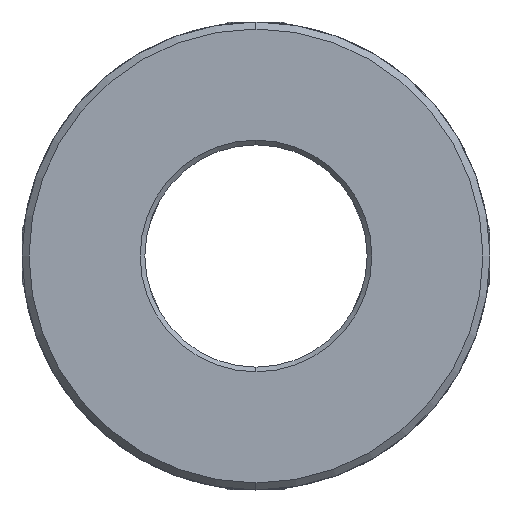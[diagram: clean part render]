
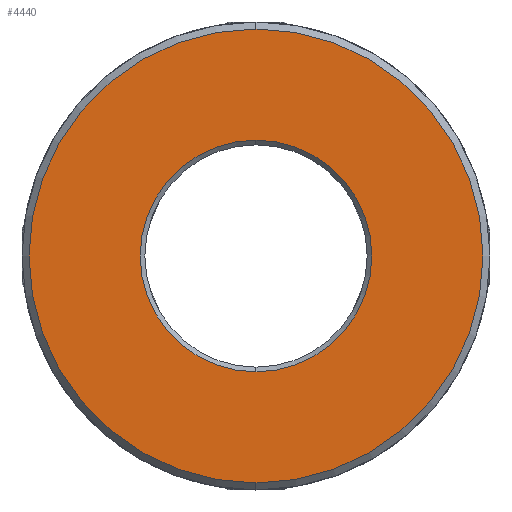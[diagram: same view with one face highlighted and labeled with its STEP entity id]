
A CAD part, front view. The second image highlights one B-rep face of the part: STEP entity #4440.
In plain terms, the highlighted planar face has unit normal (0, -1, 0).
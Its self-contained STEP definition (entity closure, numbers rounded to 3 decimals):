
#106 = CIRCLE ( 'NONE', #4881, 9.9 ) ;
#231 = CARTESIAN_POINT ( 'NONE',  ( 0., 0., -9.9 ) ) ;
#261 = VERTEX_POINT ( 'NONE', #3317 ) ;
#290 = CARTESIAN_POINT ( 'NONE',  ( 0., 0., 0. ) ) ;
#365 = EDGE_LOOP ( 'NONE', ( #3803, #7775 ) ) ;
#479 = ORIENTED_EDGE ( 'NONE', *, *, #4697, .T. ) ;
#630 = AXIS2_PLACEMENT_3D ( 'NONE', #1053, #7718, #2283 ) ;
#773 = DIRECTION ( 'NONE',  ( 0., -1., 0. ) ) ;
#788 = ORIENTED_EDGE ( 'NONE', *, *, #5465, .T. ) ;
#878 = DIRECTION ( 'NONE',  ( 0., 0., 1. ) ) ;
#962 = EDGE_CURVE ( 'NONE', #5996, #2149, #973, .T. ) ;
#973 = CIRCLE ( 'NONE', #6488, 9.9 ) ;
#1053 = CARTESIAN_POINT ( 'NONE',  ( 24.74, 0., -50. ) ) ;
#1270 = DIRECTION ( 'NONE',  ( 0., -1., 0. ) ) ;
#1856 = DIRECTION ( 'NONE',  ( 0., 0., 1. ) ) ;
#2149 = VERTEX_POINT ( 'NONE', #231 ) ;
#2278 = DIRECTION ( 'NONE',  ( 0., 1., 0. ) ) ;
#2283 = DIRECTION ( 'NONE',  ( 0., 0., 1. ) ) ;
#2430 = CARTESIAN_POINT ( 'NONE',  ( 0., 0., 0. ) ) ;
#2643 = CARTESIAN_POINT ( 'NONE',  ( 0., 0., 0. ) ) ;
#3071 = CARTESIAN_POINT ( 'NONE',  ( 0., 0., 9.9 ) ) ;
#3317 = CARTESIAN_POINT ( 'NONE',  ( 0., 0., 19.4 ) ) ;
#3424 = AXIS2_PLACEMENT_3D ( 'NONE', #2643, #773, #878 ) ;
#3455 = EDGE_LOOP ( 'NONE', ( #788, #479 ) ) ;
#3803 = ORIENTED_EDGE ( 'NONE', *, *, #5445, .T. ) ;
#4337 = FACE_OUTER_BOUND ( 'NONE', #3455, .T. ) ;
#4440 = ADVANCED_FACE ( 'NONE', ( #7747, #4337 ), #5933, .F. ) ;
#4697 = EDGE_CURVE ( 'NONE', #7692, #261, #5772, .T. ) ;
#4881 = AXIS2_PLACEMENT_3D ( 'NONE', #290, #6167, #6271 ) ;
#5246 = AXIS2_PLACEMENT_3D ( 'NONE', #2430, #1270, #1856 ) ;
#5384 = DIRECTION ( 'NONE',  ( 0., 0., 1. ) ) ;
#5445 = EDGE_CURVE ( 'NONE', #2149, #5996, #106, .T. ) ;
#5465 = EDGE_CURVE ( 'NONE', #261, #7692, #6034, .T. ) ;
#5772 = CIRCLE ( 'NONE', #5246, 19.4 ) ;
#5933 = PLANE ( 'NONE',  #630 ) ;
#5996 = VERTEX_POINT ( 'NONE', #3071 ) ;
#6034 = CIRCLE ( 'NONE', #3424, 19.4 ) ;
#6167 = DIRECTION ( 'NONE',  ( 0., 1., 0. ) ) ;
#6271 = DIRECTION ( 'NONE',  ( 0., 0., 1. ) ) ;
#6488 = AXIS2_PLACEMENT_3D ( 'NONE', #6565, #2278, #5384 ) ;
#6565 = CARTESIAN_POINT ( 'NONE',  ( 0., 0., 0. ) ) ;
#6893 = CARTESIAN_POINT ( 'NONE',  ( 0., 0., -19.4 ) ) ;
#7692 = VERTEX_POINT ( 'NONE', #6893 ) ;
#7718 = DIRECTION ( 'NONE',  ( 0., 1., 0. ) ) ;
#7747 = FACE_BOUND ( 'NONE', #365, .T. ) ;
#7775 = ORIENTED_EDGE ( 'NONE', *, *, #962, .T. ) ;
